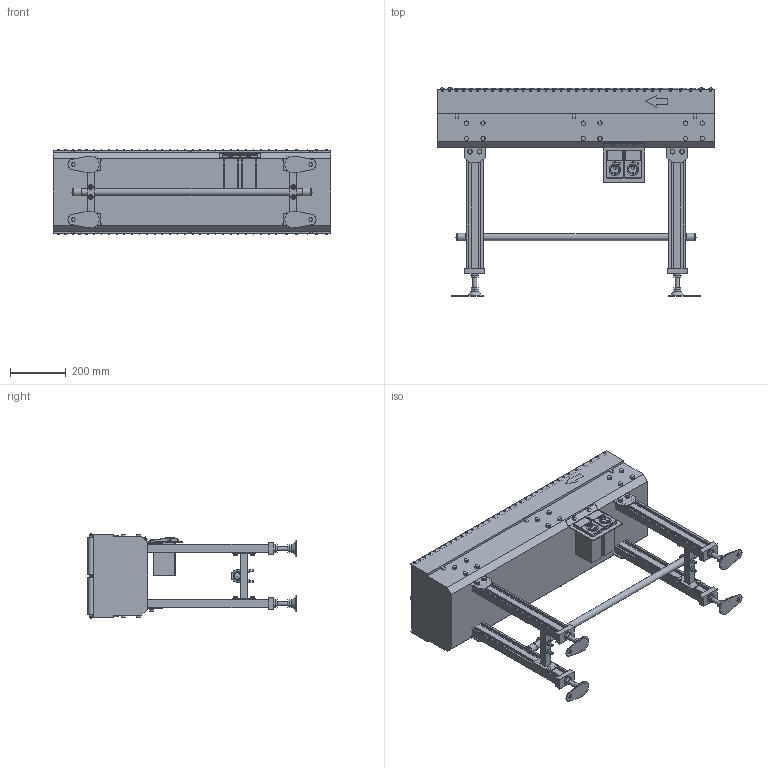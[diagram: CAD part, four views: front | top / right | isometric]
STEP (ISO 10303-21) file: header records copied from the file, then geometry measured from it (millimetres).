
FILE_DESCRIPTION (( 'STEP AP214' ), '1' );
FILE_NAME ('GA22-304x2-200-100-DC-7.5.STEP', '2024-08-08T23:10:19', ( '' ), ( '' ), 'SwSTEP 2.0', 'SolidWorks 2017', '' );
FILE_SCHEMA (( 'AUTOMOTIVE_DESIGN' ));
Length unit declared in the file: millimetre
Products named in the file (1): GA22-304x2-200-100-DC-7.5
Bounding box: 1000 x 750 x 304.35 mm (x, y, z)
Volume: 65397625.5 mm3; surface area: 2904957.5 mm2
Topology: 19 solids, 19 shells, 2071 faces, 5172 edges, 3426 vertices
Faces by surface type: plane 1494, cylinder 543, cone 18, torus 16
Full cylindrical faces by diameter (mm): 4.5 x8, 6 x70, 7 x4, 8 x140, 8.723 x8, 12.2 x2, 13 x4, 15.4 x40, 16 x8, 17 x12, 25.4 x1, 28.4 x2, 29.825 x2, 30 x4
Entity records: 58965 total; most frequent: CARTESIAN_POINT 11623, DIRECTION 9479, ORIENTED_EDGE 9346, EDGE_CURVE 4673, VECTOR 3311, LINE 3311, VERTEX_POINT 3258, AXIS2_PLACEMENT_3D 3084
